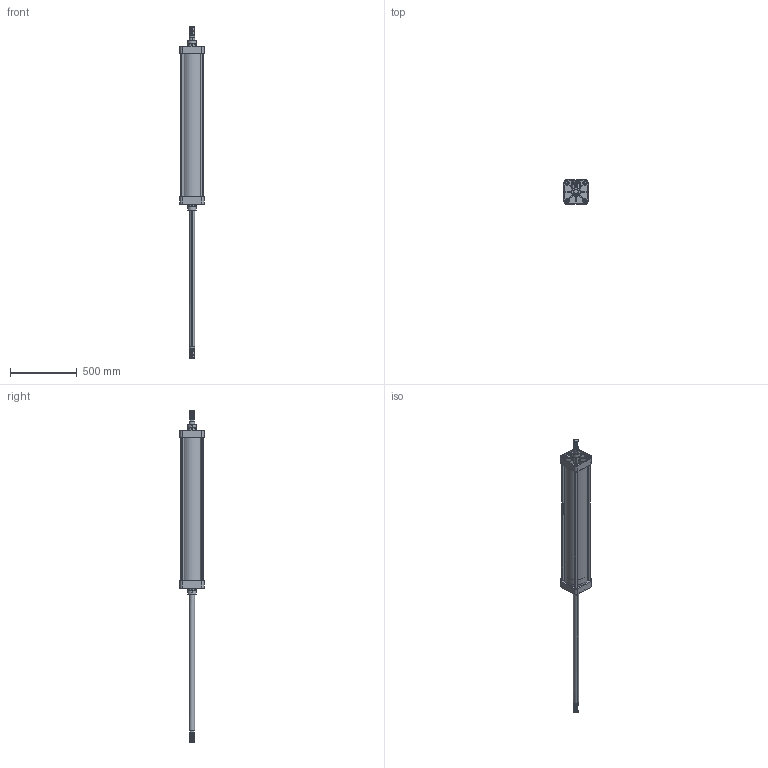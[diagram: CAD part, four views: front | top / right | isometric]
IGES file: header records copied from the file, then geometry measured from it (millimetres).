
Start section: SolidWorks IGES file using analytic representation for surfaces
Global section: file name: c:\CATALO3D\IGS\XJ160.1000P.IGS; native system: SolidWorks 2005 by SolidWorks Corporation; preprocessor: SolidWorks 2005 by SolidWorks Corporation; author: luigip; date: 050927.105952; units: millimetre
Bounding box: 180 x 180 x 2484 mm (x, y, z)
Surface area: 2165791.6 mm2 (no closed solid volume)
Topology: 0 solids, 0 shells, 1762 faces, 12822 edges, 12822 vertices
Faces by surface type: revolution 1488, bspline 274
